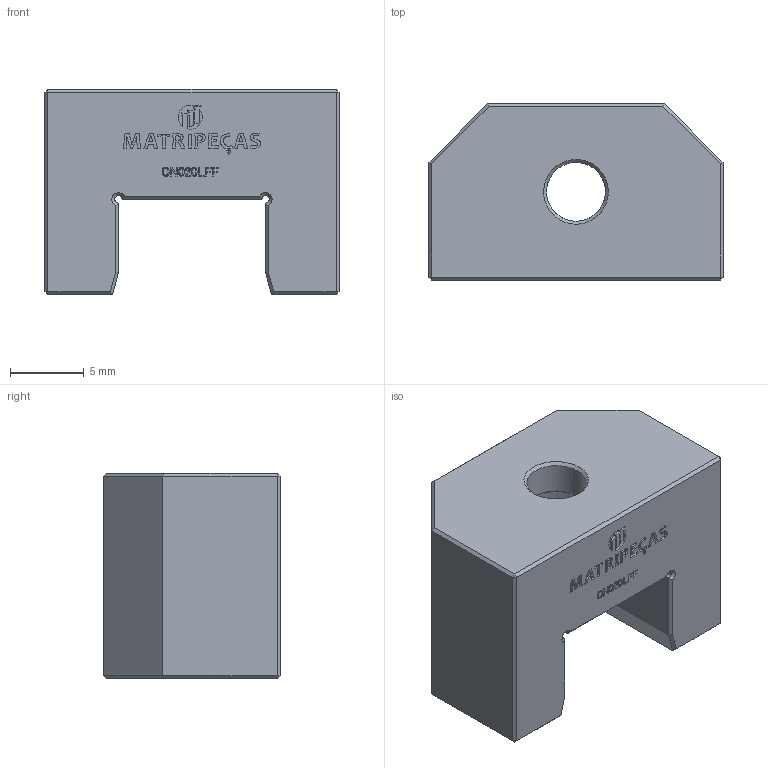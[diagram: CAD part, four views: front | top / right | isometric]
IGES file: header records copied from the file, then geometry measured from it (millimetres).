
Start section: C
Global section: file name: CN020LFF01.igs; native system: By Siemens PLM Incorporated; preprocessor: XPlus GENERIC/IGES 18.0.17; author: Author; organization: Title; date: 20240725.134827; units: millimetre
Bounding box: 20 x 12 x 14 mm (x, y, z)
Volume: 2056.6 mm3; surface area: 1432.8 mm2
Topology: 1 solids, 1 shells, 287 faces, 738 edges, 480 vertices
Faces by surface type: bspline 287
